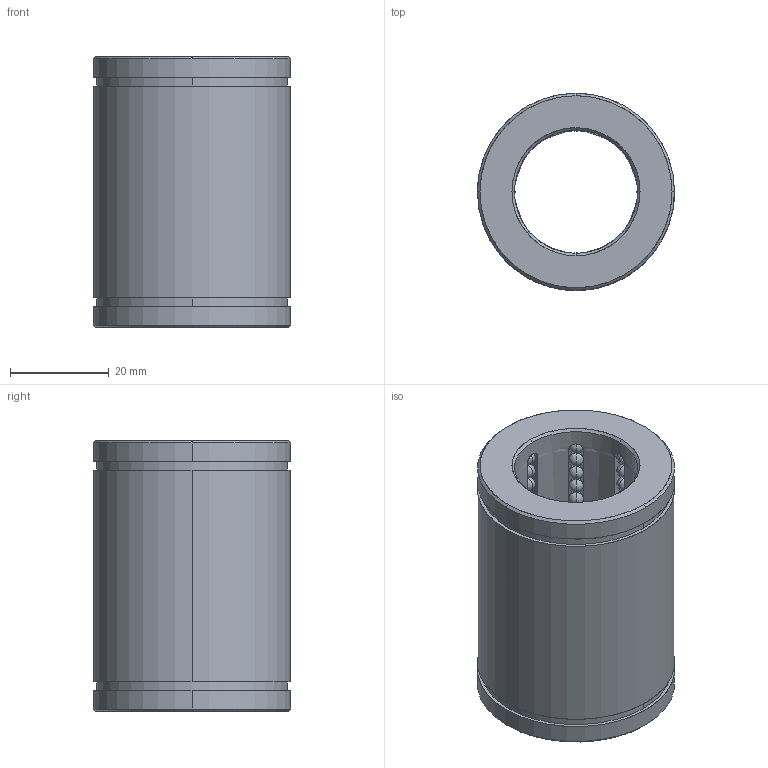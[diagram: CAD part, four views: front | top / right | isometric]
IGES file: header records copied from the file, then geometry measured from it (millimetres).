
Start section: START RECORD GO HERE.
Global section: file name: B8032555.igs; native system: DASSAULT SYSTEMES CATIA V5 R20 - www.3ds.com; preprocessor: CATIA Version 5 Release 20 ; author: Utente; organization: NB04-ASUS; date: 20200419.161520; units: millimetre
Bounding box: 40 x 40 x 55 mm (x, y, z)
Surface area: 18722 mm2 (no closed solid volume)
Topology: 0 solids, 0 shells, 554 faces, 2276 edges, 1316 vertices
Faces by surface type: revolution 524, plane 30
